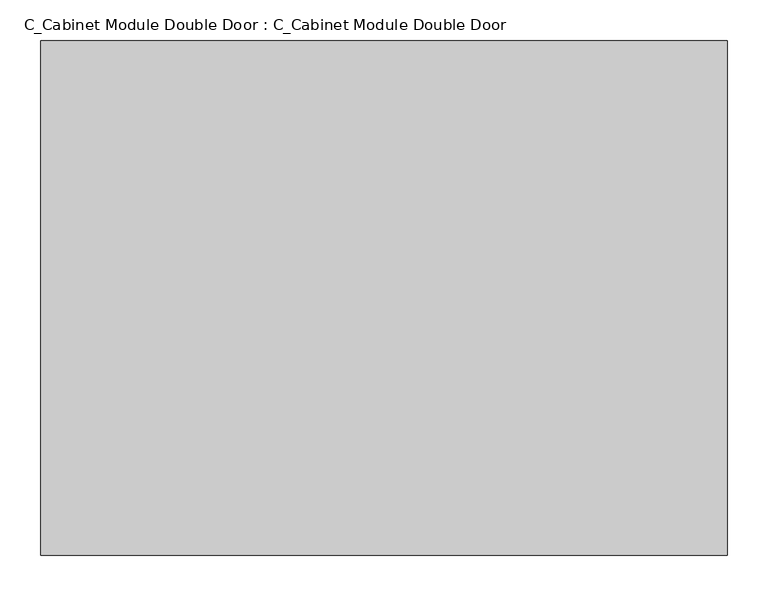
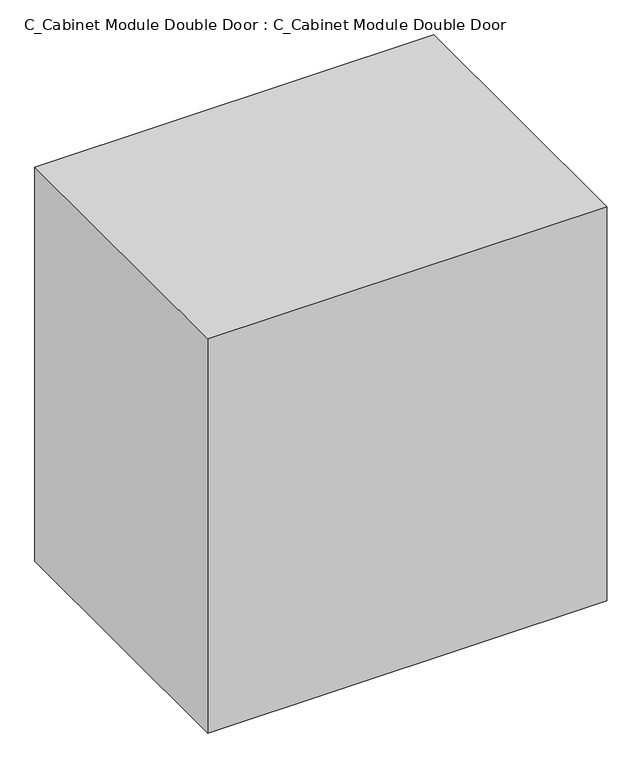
"""IFC4 building model written with IfcOpenShell, lengths in millimetres: furniture geometry, C_Cabinet Module Double Door : C_Cabinet Module Double Door."""

from ifc_helpers import new_model, si_unit, origin, origin_with_axes, place, context, project, spatial, polyline, outline, extrude, source, transform, mapped, element, save


def c_cabinet_module_double_door_c_cabinet_module_double_door_18dcfad4(model_context):
    return source(origin(), model_context, "Body", "SweptSolid", [
        extrude(outline(polyline([(419.1496094, 0.0), (-419.1496094, 0.0), (-419.1496094, 628.65), (419.1496094, 628.65), (419.1496094, 0.0)])), origin_with_axes(), (0.0, 0.0, 1.0), 876.3),
    ])


if __name__ == "__main__":
    model = new_model("IFC4")
    model_context = context("Model", 3, world=origin())
    ifc_project = project(units=[si_unit("LENGTHUNIT", "METRE", prefix="MILLI")], contexts=[model_context])
    site = spatial("IfcSite", under=ifc_project)
    building = spatial("IfcBuilding", under=site)
    placement = place(None, origin())
    c_cabinet_module_double_door_c_cabinet_module_double_door_shape = c_cabinet_module_double_door_c_cabinet_module_double_door_18dcfad4(model_context)
    element("IfcFurniture", 1, ObjectType="C_Cabinet Module Double Door : C_Cabinet Module Double Door", at=placement, inside=building, context=model_context, shape_type="MappedRepresentation", body=[
        mapped(c_cabinet_module_double_door_c_cabinet_module_double_door_shape, transform((0.0, 0.0, 0.0), x_axis=(1.0, 0.0, 0.0), y_axis=(0.0, 1.0, 0.0), z_axis=(0.0, 0.0, 1.0))),
    ])
    save(model, "model.ifc")
